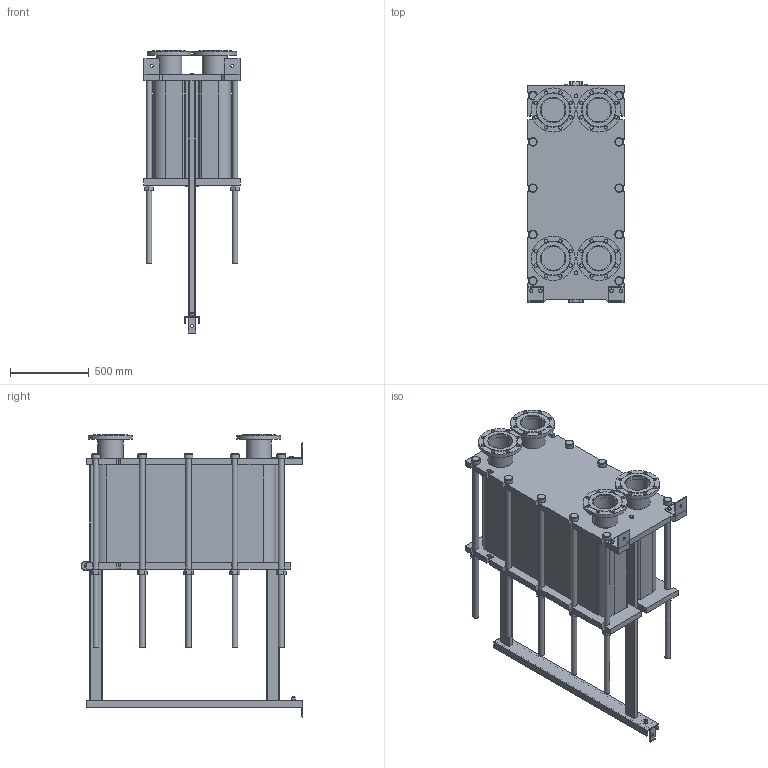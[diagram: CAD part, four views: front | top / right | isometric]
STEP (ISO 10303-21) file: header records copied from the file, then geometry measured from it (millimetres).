
FILE_DESCRIPTION(/* description */ (''),/* implementation_level */ '2;1');
FILE_NAME(/* name */ 'C:\Users\zhuro\Desktop\ENCO\TO\ЭН-041\ЭН-0,5-041-180-1.stp',/* time_stamp */ '2022-06-06T11:05:09+03:00',/* author */ ('zhuro'),/* organization */ (''),/* preprocessor_version */ 'ST-DEVELOPER v18.1',/* originating_system */ 'Autodesk Inventor 2022',/* authorisation */ '');
FILE_SCHEMA (('AUTOMOTIVE_DESIGN { 1 0 10303 214 3 1 1 }'));
Length unit declared in the file: millimetre
Products named in the file (1): ЭН-0,5-041-180-1
Bounding box: 610 x 1406.5 x 1790 mm (x, y, z)
Volume: 435368506.7 mm3; surface area: 10788445.5 mm2
Topology: 52 solids, 52 shells, 711 faces, 1696 edges, 1094 vertices
Faces by surface type: plane 487, cylinder 177, cone 41, torus 6
Full cylindrical faces by diameter (mm): 8 x4, 10 x2, 16 x8, 18 x3, 22 x32, 36 x24, 50 x1, 54 x10, 60 x12, 151 x4, 161 x8, 280 x4
Entity records: 22667 total; most frequent: CARTESIAN_POINT 5230, DIRECTION 3644, ORIENTED_EDGE 3392, EDGE_CURVE 1696, AXIS2_PLACEMENT_3D 1272, LINE 1100, VECTOR 1100, VERTEX_POINT 1094
